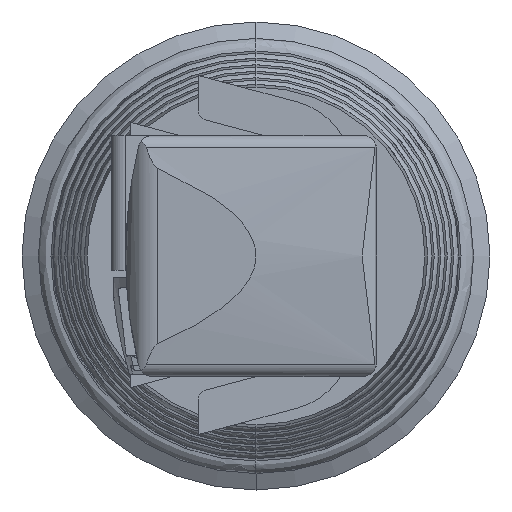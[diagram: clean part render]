
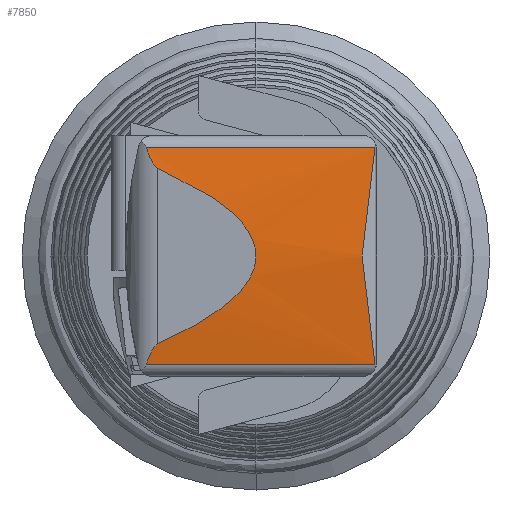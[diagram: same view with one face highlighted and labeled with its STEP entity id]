
A CAD part, left-side view. The second image highlights one B-rep face of the part: STEP entity #7850.
In plain terms, the highlighted cylindrical face has radius 15.725 mm (diameter 31.45 mm), a partial arc.
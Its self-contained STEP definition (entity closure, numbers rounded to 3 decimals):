
#75 = VERTEX_POINT ( 'NONE', #9065 ) ;
#84 = EDGE_CURVE ( 'NONE', #11100, #10070, #12598, .T. ) ;
#173 = EDGE_CURVE ( 'NONE', #75, #2870, #1875, .T. ) ;
#375 = B_SPLINE_CURVE_WITH_KNOTS ( 'NONE', 3,
 ( #12085, #9611, #1027, #9663, #2267, #10912, #3500, #12130 ),
 .UNSPECIFIED., .F., .F.,
 ( 4, 2, 2, 4 ),
 ( 0., 0., 0., 0. ),
 .UNSPECIFIED. ) ;
#476 = ORIENTED_EDGE ( 'NONE', *, *, #13436, .T. ) ;
#485 = CARTESIAN_POINT ( 'NONE',  ( 0.053, -2.409, -1.496 ) ) ;
#781 = CARTESIAN_POINT ( 'NONE',  ( 0.125, 2.166, 1.978 ) ) ;
#1015 = DIRECTION ( 'NONE',  ( 0., 0., 1. ) ) ;
#1027 = CARTESIAN_POINT ( 'NONE',  ( 0.139, 2.219, -2.088 ) ) ;
#1120 = VERTEX_POINT ( 'NONE', #14272 ) ;
#1516 = VECTOR ( 'NONE', #10977, 1000. ) ;
#1557 = ORIENTED_EDGE ( 'NONE', *, *, #15025, .T. ) ;
#1610 = CARTESIAN_POINT ( 'NONE',  ( 0.053, -2.409, 1.496 ) ) ;
#1714 = CARTESIAN_POINT ( 'NONE',  ( 0., -2.303, -0.748 ) ) ;
#1875 = LINE ( 'NONE', #6975, #8465 ) ;
#1898 = AXIS2_PLACEMENT_3D ( 'NONE', #13370, #15844, #1015 ) ;
#2017 = CARTESIAN_POINT ( 'NONE',  ( 0.15, 2.248, 2.165 ) ) ;
#2267 = CARTESIAN_POINT ( 'NONE',  ( 0.12, 2.147, -1.942 ) ) ;
#2269 = VERTEX_POINT ( 'NONE', #3997 ) ;
#2870 = VERTEX_POINT ( 'NONE', #10791 ) ;
#3500 = CARTESIAN_POINT ( 'NONE',  ( 0.108, 2.075, -1.84 ) ) ;
#3711 = B_SPLINE_CURVE_WITH_KNOTS ( 'NONE', 3,
 ( #10243, #1610, #13981, #6579 ),
 .UNSPECIFIED., .F., .F.,
 ( 4, 4 ),
 ( 0., 0.002 ),
 .UNSPECIFIED. ) ;
#3997 = CARTESIAN_POINT ( 'NONE',  ( 0.161, 2.274, -2.243 ) ) ;
#4202 = CARTESIAN_POINT ( 'NONE',  ( 0.161, -2.466, -2.243 ) ) ;
#4723 = CARTESIAN_POINT ( 'NONE',  ( 0.106, 2.036, 1.822 ) ) ;
#5111 = CARTESIAN_POINT ( 'NONE',  ( 0.161, -2.466, -2.243 ) ) ;
#5684 = CARTESIAN_POINT ( 'NONE',  ( 0.106, 2.036, 1.822 ) ) ;
#5953 = CARTESIAN_POINT ( 'NONE',  ( -0.035, -0.682, -0.61 ) ) ;
#6169 = FACE_OUTER_BOUND ( 'NONE', #7209, .T. ) ;
#6331 = CARTESIAN_POINT ( 'NONE',  ( 0., -2.2, 0. ) ) ;
#6579 = CARTESIAN_POINT ( 'NONE',  ( 0., -2.2, 0. ) ) ;
#6975 = CARTESIAN_POINT ( 'NONE',  ( 0.161, 6., 2.243 ) ) ;
#7209 = EDGE_LOOP ( 'NONE', ( #11012, #12725, #8085, #476, #13762, #1557, #9483 ) ) ;
#7850 = ADVANCED_FACE ( 'NONE', ( #6169 ), #12329, .T. ) ;
#8085 = ORIENTED_EDGE ( 'NONE', *, *, #11940, .F. ) ;
#8188 = CARTESIAN_POINT ( 'NONE',  ( 0.12, 2.147, 1.941 ) ) ;
#8465 = VECTOR ( 'NONE', #15572, 1000. ) ;
#8583 = EDGE_CURVE ( 'NONE', #2269, #13494, #375, .T. ) ;
#9065 = CARTESIAN_POINT ( 'NONE',  ( 0.161, -2.466, 2.243 ) ) ;
#9418 = CARTESIAN_POINT ( 'NONE',  ( 0.139, 2.219, 2.089 ) ) ;
#9483 = ORIENTED_EDGE ( 'NONE', *, *, #84, .F. ) ;
#9611 = CARTESIAN_POINT ( 'NONE',  ( 0.15, 2.248, -2.165 ) ) ;
#9663 = CARTESIAN_POINT ( 'NONE',  ( 0.125, 2.166, -1.978 ) ) ;
#10070 = VERTEX_POINT ( 'NONE', #5111 ) ;
#10243 = CARTESIAN_POINT ( 'NONE',  ( 0.161, -2.466, 2.243 ) ) ;
#10450 =( BOUNDED_CURVE ( )  B_SPLINE_CURVE ( 3, ( #4723, #13347, #5953, #14596 ),
 .UNSPECIFIED., .F., .F. ) 
 B_SPLINE_CURVE_WITH_KNOTS ( ( 4, 4 ),
 ( 3.025, 3.258 ),
 .UNSPECIFIED. ) 
 CURVE ( )  GEOMETRIC_REPRESENTATION_ITEM ( )  RATIONAL_B_SPLINE_CURVE ( ( 1., 0.996, 0.996, 1. ) ) 
 REPRESENTATION_ITEM ( '' )  );
#10668 = CARTESIAN_POINT ( 'NONE',  ( 0.161, 2.274, 2.243 ) ) ;
#10791 = CARTESIAN_POINT ( 'NONE',  ( 0.161, 2.274, 2.243 ) ) ;
#10912 = CARTESIAN_POINT ( 'NONE',  ( 0.112, 2.102, -1.874 ) ) ;
#10977 = DIRECTION ( 'NONE',  ( 0., -1., 0. ) ) ;
#11012 = ORIENTED_EDGE ( 'NONE', *, *, #12663, .F. ) ;
#11100 = VERTEX_POINT ( 'NONE', #6331 ) ;
#11596 = CARTESIAN_POINT ( 'NONE',  ( 0., -2.2, 0. ) ) ;
#11936 = B_SPLINE_CURVE_WITH_KNOTS ( 'NONE', 3,
 ( #5684, #13077, #15546, #8188, #781, #9418, #2017, #10668 ),
 .UNSPECIFIED., .F., .F.,
 ( 4, 2, 2, 4 ),
 ( 0., 0., 0., 0. ),
 .UNSPECIFIED. ) ;
#11940 = EDGE_CURVE ( 'NONE', #1120, #2870, #11936, .T. ) ;
#12085 = CARTESIAN_POINT ( 'NONE',  ( 0.161, 2.274, -2.243 ) ) ;
#12130 = CARTESIAN_POINT ( 'NONE',  ( 0.106, 2.036, -1.822 ) ) ;
#12329 = CYLINDRICAL_SURFACE ( 'NONE', #1898, 15.725 ) ;
#12598 = B_SPLINE_CURVE_WITH_KNOTS ( 'NONE', 3,
 ( #11596, #1714, #485, #4202 ),
 .UNSPECIFIED., .F., .F.,
 ( 4, 4 ),
 ( 0., 0.002 ),
 .UNSPECIFIED. ) ;
#12663 = EDGE_CURVE ( 'NONE', #75, #11100, #3711, .T. ) ;
#12725 = ORIENTED_EDGE ( 'NONE', *, *, #173, .T. ) ;
#13077 = CARTESIAN_POINT ( 'NONE',  ( 0.108, 2.075, 1.839 ) ) ;
#13347 = CARTESIAN_POINT ( 'NONE',  ( -0.035, -0.682, 0.61 ) ) ;
#13370 = CARTESIAN_POINT ( 'NONE',  ( 15.725, 6., 0. ) ) ;
#13436 = EDGE_CURVE ( 'NONE', #1120, #13494, #10450, .T. ) ;
#13444 = CARTESIAN_POINT ( 'NONE',  ( 0.106, 2.036, -1.822 ) ) ;
#13494 = VERTEX_POINT ( 'NONE', #13444 ) ;
#13762 = ORIENTED_EDGE ( 'NONE', *, *, #8583, .F. ) ;
#13981 = CARTESIAN_POINT ( 'NONE',  ( 0., -2.303, 0.749 ) ) ;
#14272 = CARTESIAN_POINT ( 'NONE',  ( 0.106, 2.036, 1.822 ) ) ;
#14596 = CARTESIAN_POINT ( 'NONE',  ( 0.106, 2.036, -1.822 ) ) ;
#14659 = LINE ( 'NONE', #15883, #1516 ) ;
#15025 = EDGE_CURVE ( 'NONE', #2269, #10070, #14659, .T. ) ;
#15546 = CARTESIAN_POINT ( 'NONE',  ( 0.112, 2.101, 1.874 ) ) ;
#15572 = DIRECTION ( 'NONE',  ( 0., 1., 0. ) ) ;
#15844 = DIRECTION ( 'NONE',  ( 0., 1., 0. ) ) ;
#15883 = CARTESIAN_POINT ( 'NONE',  ( 0.161, 6., -2.243 ) ) ;
